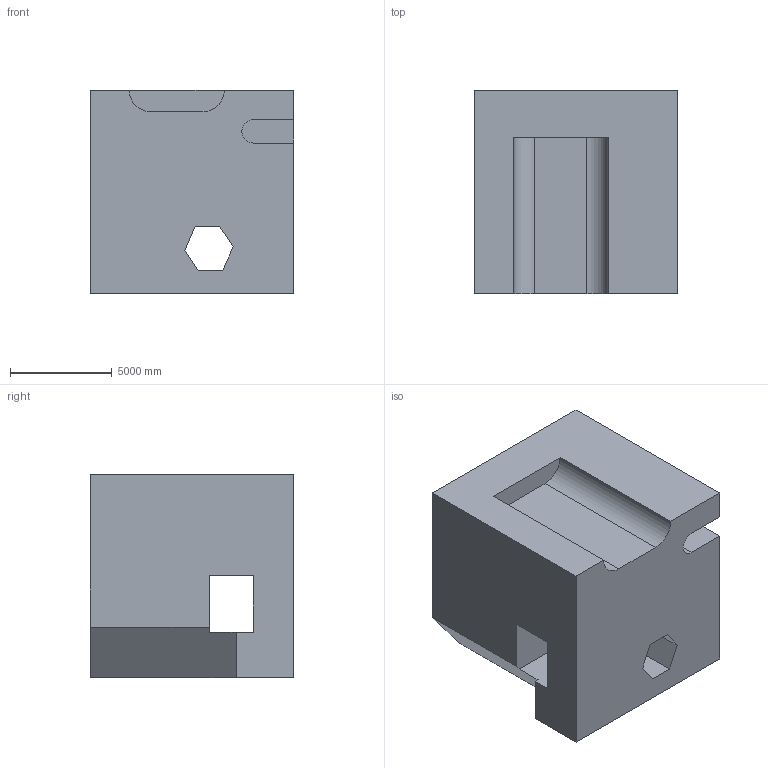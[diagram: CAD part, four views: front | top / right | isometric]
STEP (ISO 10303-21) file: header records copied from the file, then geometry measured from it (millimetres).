
FILE_DESCRIPTION (( 'STEP AP203' ), '1' );
FILE_NAME ('1496.STEP', '2022-08-18T14:50:02', ( 'user' ), ( '' ), 'SwSTEP 2.0', 'SolidWorks 2021', '' );
FILE_SCHEMA (( 'CONFIG_CONTROL_DESIGN' ));
Length unit declared in the file: centimetre
Products named in the file (1): 1496
Bounding box: 10000 x 10000 x 10000 mm (x, y, z)
Volume: 830649686979 mm3; surface area: 773920417.3 mm2
Topology: 1 solids, 1 shells, 29 faces, 90 edges, 60 vertices
Faces by surface type: plane 26, cylinder 3
Entity records: 1079 total; most frequent: ORIENTED_EDGE 180, CARTESIAN_POINT 180, DIRECTION 156, EDGE_CURVE 90, LINE 84, VECTOR 84, VERTEX_POINT 60, AXIS2_PLACEMENT_3D 36
